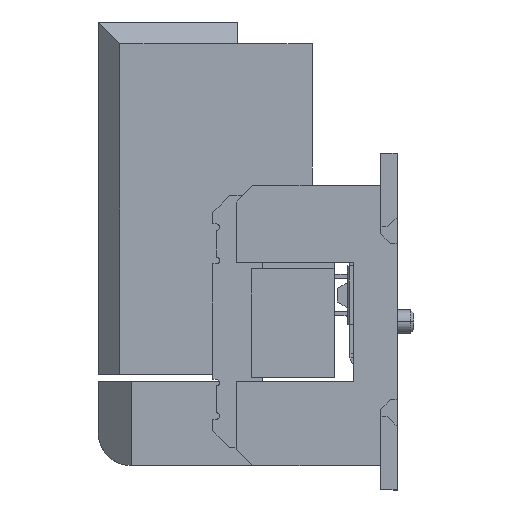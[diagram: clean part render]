
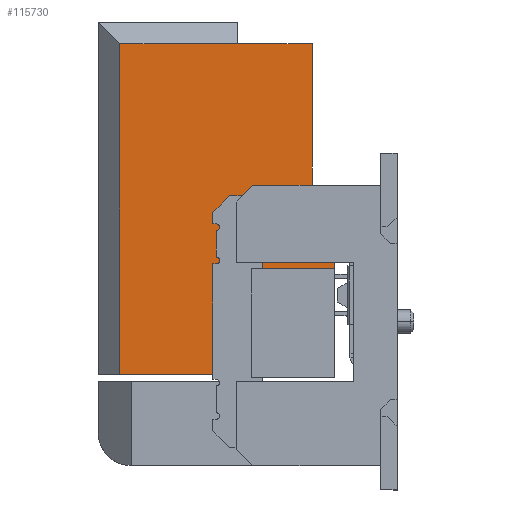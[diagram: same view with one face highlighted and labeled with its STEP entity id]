
A CAD part, left-side view. The second image highlights one B-rep face of the part: STEP entity #115730.
In plain terms, the highlighted planar face has unit normal (-1, 0, 0) as drawn and (1, 0, 0) by its records, which use the part's own axes.
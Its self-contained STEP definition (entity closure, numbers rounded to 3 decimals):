
#114940=CARTESIAN_POINT('',(7.01,2.75,
4.4));
#114950=DIRECTION('',(1.,0.,-0.));
#114960=DIRECTION('',(0.,0.,1.));
#114970=AXIS2_PLACEMENT_3D('',#114940,#114950,#114960);
#114980=PLANE('',#114970);
#114990=CARTESIAN_POINT('',(7.01,8.055,
8.35));
#115000=DIRECTION('',(0.,1.,0.));
#115010=VECTOR('',#115000,1.);
#115020=LINE('',#114990,#115010);
#115030=CARTESIAN_POINT('',(7.01,2.75,
8.35));
#115040=VERTEX_POINT('',#115030);
#115050=CARTESIAN_POINT('',(7.01,12.71,
8.35));
#115060=VERTEX_POINT('',#115050);
#115070=EDGE_CURVE('',#115040,#115060,#115020,.T.);
#115080=ORIENTED_EDGE('',*,*,#115070,.F.);
#115090=CARTESIAN_POINT('',(7.01,12.71,
6.9));
#115100=DIRECTION('',(0.,0.,-1.));
#115110=VECTOR('',#115100,1.);
#115120=LINE('',#115090,#115110);
#115130=CARTESIAN_POINT('',(7.01,12.71,
4.8));
#115140=VERTEX_POINT('',#115130);
#115150=EDGE_CURVE('',#115060,#115140,#115120,.T.);
#115160=ORIENTED_EDGE('',*,*,#115150,.F.);
#115170=CARTESIAN_POINT('',(7.01,12.71,
1.9));
#115180=DIRECTION('',(0.,0.,1.));
#115190=VECTOR('',#115180,1.);
#115200=LINE('',#115170,#115190);
#115210=CARTESIAN_POINT('',(7.01,12.71,
2.56));
#115220=VERTEX_POINT('',#115210);
#115230=EDGE_CURVE('',#115220,#115140,#115200,.T.);
#115240=ORIENTED_EDGE('',*,*,#115230,.T.);
#115250=CARTESIAN_POINT('',(7.01,2.75,
2.56));
#115260=DIRECTION('',(0.,-1.,0.));
#115270=VECTOR('',#115260,1.);
#115280=LINE('',#115250,#115270);
#115290=CARTESIAN_POINT('',(7.01,8.33,
2.56));
#115300=VERTEX_POINT('',#115290);
#115310=EDGE_CURVE('',#115220,#115300,#115280,.T.);
#115320=ORIENTED_EDGE('',*,*,#115310,.F.);
#115330=CARTESIAN_POINT('',(7.01,8.33,
1.9));
#115340=DIRECTION('',(0.,0.,-1.));
#115350=VECTOR('',#115340,1.);
#115360=LINE('',#115330,#115350);
#115370=CARTESIAN_POINT('',(7.01,8.33,
1.9));
#115380=VERTEX_POINT('',#115370);
#115390=EDGE_CURVE('',#115300,#115380,#115360,.T.);
#115400=ORIENTED_EDGE('',*,*,#115390,.F.);
#115410=CARTESIAN_POINT('',(7.01,2.75,
1.9));
#115420=DIRECTION('',(0.,1.,0.));
#115430=VECTOR('',#115420,1.);
#115440=LINE('',#115410,#115430);
#115450=CARTESIAN_POINT('',(7.01,5.93,
1.9));
#115460=VERTEX_POINT('',#115450);
#115470=EDGE_CURVE('',#115460,#115380,#115440,.T.);
#115480=ORIENTED_EDGE('',*,*,#115470,.T.);
#115490=CARTESIAN_POINT('',(7.01,5.93,
1.9));
#115500=DIRECTION('',(0.,0.,1.));
#115510=VECTOR('',#115500,1.);
#115520=LINE('',#115490,#115510);
#115530=CARTESIAN_POINT('',(7.01,5.93,
4.4));
#115540=VERTEX_POINT('',#115530);
#115550=EDGE_CURVE('',#115460,#115540,#115520,.T.);
#115560=ORIENTED_EDGE('',*,*,#115550,.F.);
#115570=CARTESIAN_POINT('',(7.01,2.75,
4.4));
#115580=DIRECTION('',(0.,1.,0.));
#115590=VECTOR('',#115580,1.);
#115600=LINE('',#115570,#115590);
#115610=CARTESIAN_POINT('',(7.01,2.75,
4.4));
#115620=VERTEX_POINT('',#115610);
#115630=EDGE_CURVE('',#115620,#115540,#115600,.T.);
#115640=ORIENTED_EDGE('',*,*,#115630,.T.);
#115650=CARTESIAN_POINT('',(7.01,2.75,
9.));
#115660=DIRECTION('',(0.,0.,-1.));
#115670=VECTOR('',#115660,1.);
#115680=LINE('',#115650,#115670);
#115690=EDGE_CURVE('',#115040,#115620,#115680,.T.);
#115700=ORIENTED_EDGE('',*,*,#115690,.T.);
#115710=EDGE_LOOP('',(#115700,#115640,#115560,#115480,#115400,#115320,
#115240,#115160,#115080));
#115720=FACE_OUTER_BOUND('',#115710,.T.);
#115730=ADVANCED_FACE('',(#115720),#114980,.T.);
